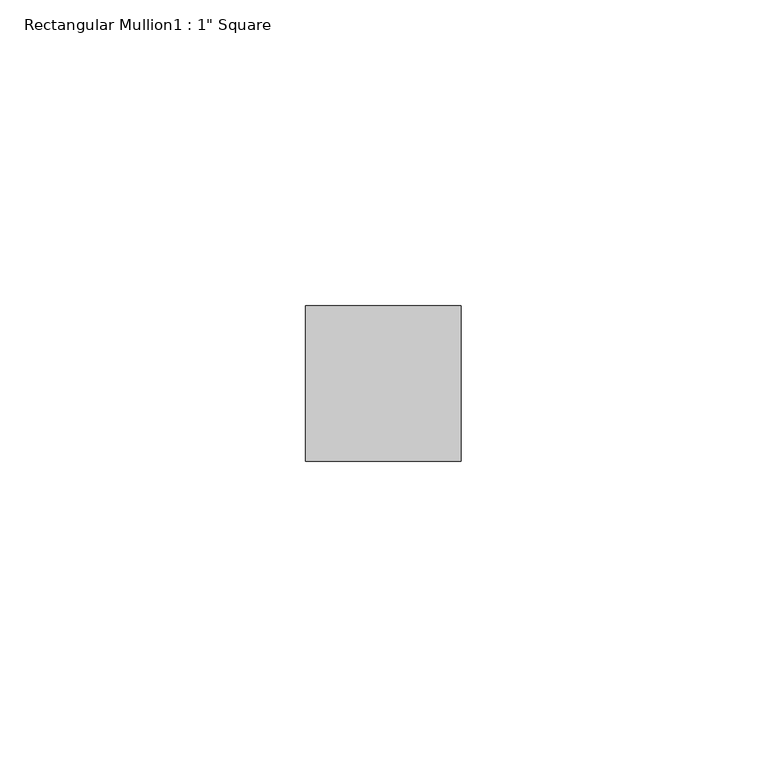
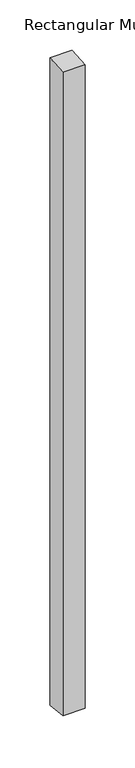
"""IFC4 building model written with IfcOpenShell, lengths in millimetres: member geometry."""

from ifc_helpers import new_model, si_unit, frame, origin, place, context, project, spatial, polyline, outline, extrude, source, transform, mapped, element, save


def member_7d7b18c4(model_context):
    return source(origin(), model_context, "Body", "SweptSolid", [
        extrude(outline(polyline([(-44.45, -4.2341647), (-19.05, -1.814642), (-19.05, -788.2125933), (-44.45, -785.7930706), (-44.45, -4.2341647)])), frame((-12.7, 0.0, 0.0), z_axis=(1.0, 0.0, 0.0), x_axis=(0.0, 1.0, 0.0)), (0.0, 0.0, 1.0), 25.4),
    ])


if __name__ == "__main__":
    model = new_model("IFC4")
    model_context = context("Model", 3, world=origin())
    ifc_project = project(units=[si_unit("LENGTHUNIT", "METRE", prefix="MILLI")], contexts=[model_context])
    site = spatial("IfcSite", under=ifc_project)
    building = spatial("IfcBuilding", under=site)
    placement = place(None, origin())
    member_shape = member_7d7b18c4(model_context)
    element("IfcMember", 1, ObjectType="Rectangular Mullion1 : 1\" Square", at=placement, inside=building, context=model_context, shape_type="MappedRepresentation", body=[
        mapped(member_shape, transform((0.0, 0.0, 0.0), x_axis=(1.0, 0.0, 0.0), y_axis=(0.0, 1.0, 0.0), z_axis=(0.0, 0.0, 1.0))),
    ])
    save(model, "model.ifc")
